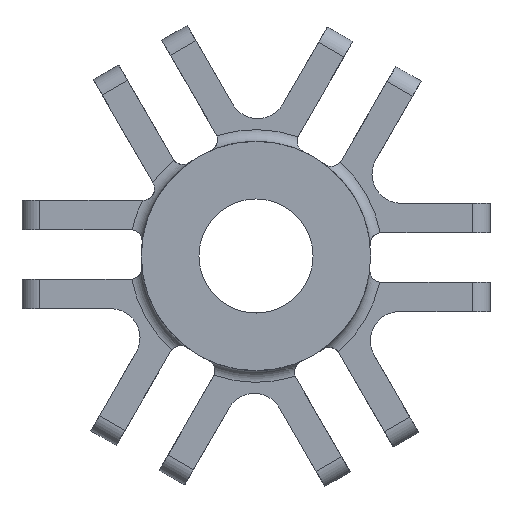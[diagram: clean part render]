
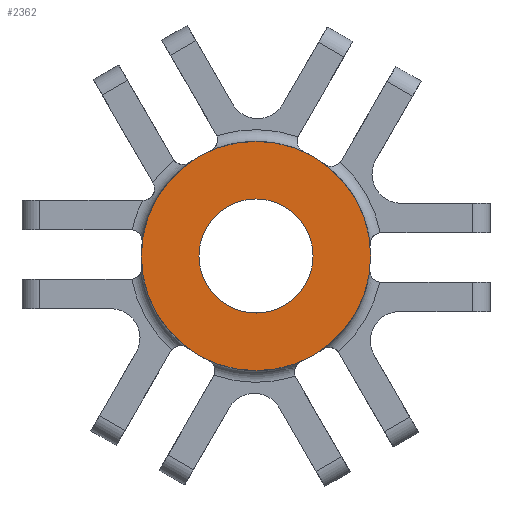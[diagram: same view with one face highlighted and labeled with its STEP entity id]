
A CAD part, left-side view. The second image highlights one B-rep face of the part: STEP entity #2362.
In plain terms, the highlighted planar face has unit normal (-1, 0, 0).
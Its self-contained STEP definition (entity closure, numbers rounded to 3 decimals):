
#40=FACE_BOUND('',#304,.T.);
#82=PLANE('',#2568);
#162=FACE_OUTER_BOUND('',#303,.T.);
#303=EDGE_LOOP('',(#1773));
#304=EDGE_LOOP('',(#1774));
#822=CIRCLE('',#2485,19.602);
#878=CIRCLE('',#2569,9.75);
#975=VERTEX_POINT('',#3579);
#1075=VERTEX_POINT('',#4066);
#1222=EDGE_CURVE('',#975,#975,#822,.T.);
#1348=EDGE_CURVE('',#1075,#1075,#878,.T.);
#1773=ORIENTED_EDGE('',*,*,#1222,.T.);
#1774=ORIENTED_EDGE('',*,*,#1348,.T.);
#2362=ADVANCED_FACE('',(#162,#40),#82,.F.);
#2485=AXIS2_PLACEMENT_3D('',#3581,#2790,#2791);
#2568=AXIS2_PLACEMENT_3D('',#4065,#3006,#3007);
#2569=AXIS2_PLACEMENT_3D('',#4067,#3008,#3009);
#2790=DIRECTION('center_axis',(-1.,0.,0.));
#2791=DIRECTION('ref_axis',(0.,1.,0.));
#3006=DIRECTION('center_axis',(1.,0.,0.));
#3007=DIRECTION('ref_axis',(0.,1.,0.));
#3008=DIRECTION('center_axis',(1.,0.,0.));
#3009=DIRECTION('ref_axis',(0.,-1.,0.));
#3579=CARTESIAN_POINT('',(-15.,-34.602,-4.5));
#3581=CARTESIAN_POINT('Origin',(-15.,-15.,-4.5));
#4065=CARTESIAN_POINT('Origin',(-15.,-15.,-4.5));
#4066=CARTESIAN_POINT('',(-15.,-5.25,-4.5));
#4067=CARTESIAN_POINT('Origin',(-15.,-15.,-4.5));
